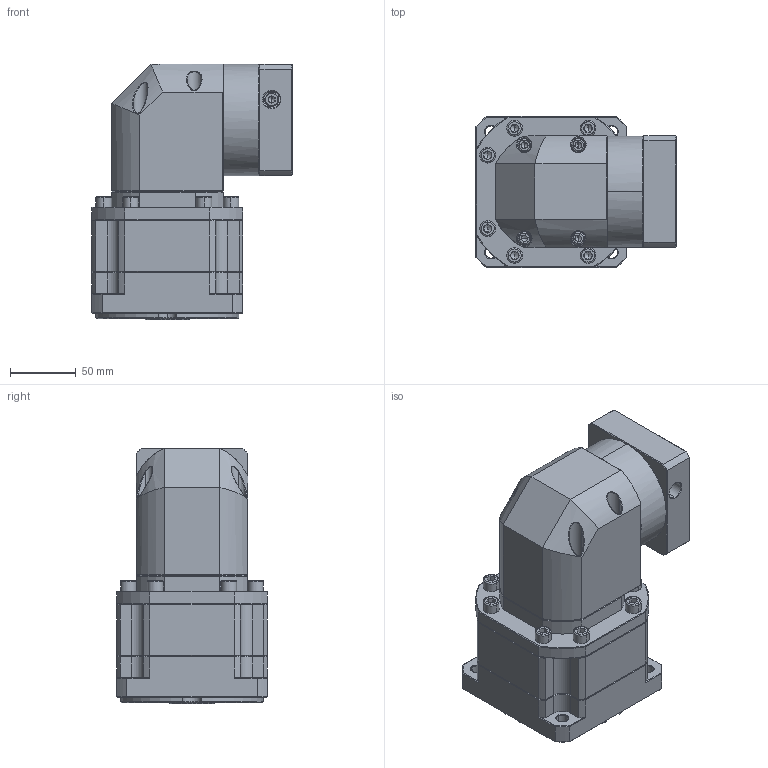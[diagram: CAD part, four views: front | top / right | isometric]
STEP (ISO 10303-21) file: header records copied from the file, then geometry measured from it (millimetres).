
FILE_DESCRIPTION (( 'STEP AP214' ), '1' );
FILE_NAME ('ZBR115A-K25-L2-P2-16-80-100-M6.step', '2023-08-26T13:36:20', ( '' ), ( '' ), 'SwSTEP 2.0', 'SolidWorks 2016', '' );
FILE_SCHEMA (( 'AUTOMOTIVE_DESIGN' ));
Length unit declared in the file: millimetre
Products named in the file (1): ZBR115A-K25-L2-P2-16-80-100-M6
Bounding box: 152.6 x 115 x 195 mm (x, y, z)
Volume: 1891328.1 mm3; surface area: 175180.6 mm2
Topology: 6 solids, 6 shells, 2545 faces, 6577 edges, 4143 vertices
Faces by surface type: plane 1272, cylinder 446, bspline 442, cone 371, torus 14
Entity records: 131808 total; most frequent: CARTESIAN_POINT 45403, ORIENTED_EDGE 13050, DIRECTION 10534, EDGE_CURVE 6525, LINE 4224, VECTOR 4224, VERTEX_POINT 4143, AXIS2_PLACEMENT_3D 3155
